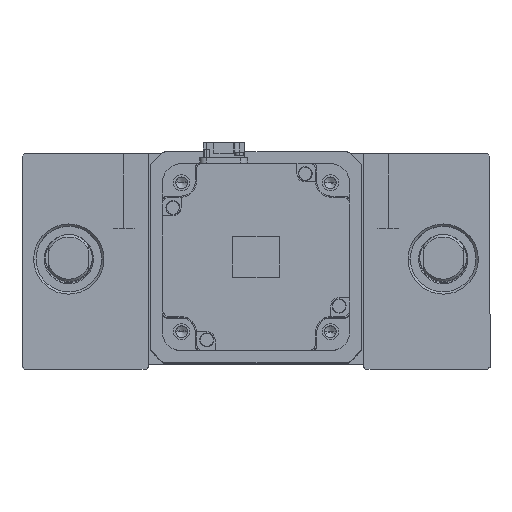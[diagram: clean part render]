
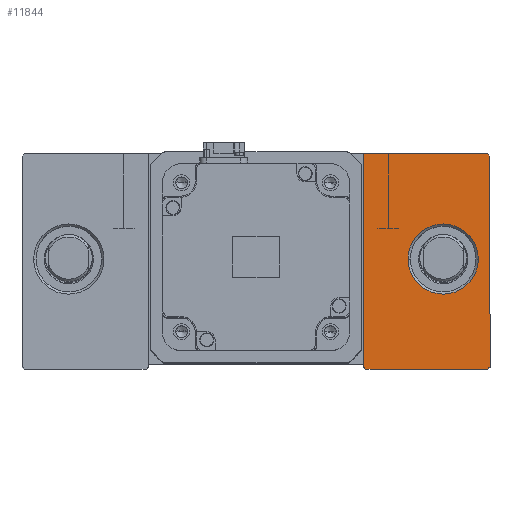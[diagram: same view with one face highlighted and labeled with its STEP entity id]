
A CAD part, top view. The second image highlights one B-rep face of the part: STEP entity #11844.
In plain terms, the highlighted planar face has unit normal (0, 0, 1).
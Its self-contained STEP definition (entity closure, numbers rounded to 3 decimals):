
#1607 = CARTESIAN_POINT ( 'NONE',  ( 46., 45., 35. ) ) ;
#1833 = PLANE ( 'NONE',  #11128 ) ;
#4224 = ORIENTED_EDGE ( 'NONE', *, *, #23421, .T. ) ;
#4590 = AXIS2_PLACEMENT_3D ( 'NONE', #46456, #23168, #50364 ) ;
#5204 = DIRECTION ( 'NONE',  ( 0.707, -0.707, 0. ) ) ;
#5372 = DIRECTION ( 'NONE',  ( -0.707, 0.707, 0. ) ) ;
#6078 = ORIENTED_EDGE ( 'NONE', *, *, #38535, .T. ) ;
#6246 = VERTEX_POINT ( 'NONE', #29766 ) ;
#6726 = LINE ( 'NONE', #9242, #45621 ) ;
#7371 = CIRCLE ( 'NONE', #4590, 15. ) ;
#7523 = CARTESIAN_POINT ( 'NONE',  ( 73., -73., 35. ) ) ;
#8937 = LINE ( 'NONE', #19663, #27165 ) ;
#9242 = CARTESIAN_POINT ( 'NONE',  ( 72., 72., 35. ) ) ;
#10149 = ORIENTED_EDGE ( 'NONE', *, *, #43912, .T. ) ;
#10840 = VERTEX_POINT ( 'NONE', #33654 ) ;
#11128 = AXIS2_PLACEMENT_3D ( 'NONE', #40519, #17377, #44583 ) ;
#11461 = EDGE_CURVE ( 'NONE', #15978, #42777, #47957, .T. ) ;
#11844 = ADVANCED_FACE ( 'NONE', ( #49122, #18111 ), #1833, .T. ) ;
#13812 = EDGE_CURVE ( 'NONE', #42777, #30918, #28845, .T. ) ;
#14449 = LINE ( 'NONE', #45447, #35096 ) ;
#14575 = CARTESIAN_POINT ( 'NONE',  ( 46., 45., 35. ) ) ;
#15554 = CARTESIAN_POINT ( 'NONE',  ( 80., 0., 35. ) ) ;
#15978 = VERTEX_POINT ( 'NONE', #48186 ) ;
#16796 = EDGE_CURVE ( 'NONE', #33837, #41480, #45508, .T. ) ;
#17279 = VECTOR ( 'NONE', #24842, 1000. ) ;
#17377 = DIRECTION ( 'NONE',  ( 0., 0., 1. ) ) ;
#18111 = FACE_OUTER_BOUND ( 'NONE', #19152, .T. ) ;
#18149 = VECTOR ( 'NONE', #37845, 1000. ) ;
#19152 = EDGE_LOOP ( 'NONE', ( #36443, #4224, #20770, #36185, #43749, #10149, #41071 ) ) ;
#19445 = DIRECTION ( 'NONE',  ( 1., 0., 0. ) ) ;
#19663 = CARTESIAN_POINT ( 'NONE',  ( 46., -47., 35. ) ) ;
#20523 = EDGE_LOOP ( 'NONE', ( #6078, #37343 ) ) ;
#20770 = ORIENTED_EDGE ( 'NONE', *, *, #46662, .T. ) ;
#21072 = CARTESIAN_POINT ( 'NONE',  ( 46., 45., 35. ) ) ;
#21296 = CARTESIAN_POINT ( 'NONE',  ( 46., -46., 35. ) ) ;
#22283 = AXIS2_PLACEMENT_3D ( 'NONE', #15554, #42753, #19445 ) ;
#23105 = CARTESIAN_POINT ( 'NONE',  ( 65., 0., 35. ) ) ;
#23168 = DIRECTION ( 'NONE',  ( 0., 0., -1. ) ) ;
#23421 = EDGE_CURVE ( 'NONE', #30918, #26448, #38023, .T. ) ;
#23580 = DIRECTION ( 'NONE',  ( 1., 0., 0. ) ) ;
#24842 = DIRECTION ( 'NONE',  ( 0., -1., 0. ) ) ;
#25610 = CARTESIAN_POINT ( 'NONE',  ( 47., -47., 35. ) ) ;
#26448 = VERTEX_POINT ( 'NONE', #25610 ) ;
#27165 = VECTOR ( 'NONE', #23580, 1000. ) ;
#27238 = VERTEX_POINT ( 'NONE', #23105 ) ;
#28260 = CARTESIAN_POINT ( 'NONE',  ( 0., 0., 35. ) ) ;
#28487 = EDGE_CURVE ( 'NONE', #41480, #10840, #14449, .T. ) ;
#28845 = LINE ( 'NONE', #1607, #17279 ) ;
#28929 = CARTESIAN_POINT ( 'NONE',  ( 99., -47., 35. ) ) ;
#29766 = CARTESIAN_POINT ( 'NONE',  ( 95., 0., 35. ) ) ;
#30918 = VERTEX_POINT ( 'NONE', #21296 ) ;
#33654 = CARTESIAN_POINT ( 'NONE',  ( 100., 44., 35. ) ) ;
#33837 = VERTEX_POINT ( 'NONE', #28929 ) ;
#35096 = VECTOR ( 'NONE', #49347, 1000. ) ;
#35173 = VECTOR ( 'NONE', #50325, 1000. ) ;
#35982 = CARTESIAN_POINT ( 'NONE',  ( 100., -46., 35. ) ) ;
#36185 = ORIENTED_EDGE ( 'NONE', *, *, #16796, .T. ) ;
#36443 = ORIENTED_EDGE ( 'NONE', *, *, #13812, .T. ) ;
#37343 = ORIENTED_EDGE ( 'NONE', *, *, #43650, .T. ) ;
#37845 = DIRECTION ( 'NONE',  ( -1., 0., 0. ) ) ;
#38023 = LINE ( 'NONE', #28260, #47126 ) ;
#38535 = EDGE_CURVE ( 'NONE', #6246, #27238, #49969, .T. ) ;
#40519 = CARTESIAN_POINT ( 'NONE',  ( 0., 0., 35. ) ) ;
#41071 = ORIENTED_EDGE ( 'NONE', *, *, #11461, .T. ) ;
#41480 = VERTEX_POINT ( 'NONE', #35982 ) ;
#42753 = DIRECTION ( 'NONE',  ( 0., 0., -1. ) ) ;
#42777 = VERTEX_POINT ( 'NONE', #21072 ) ;
#43650 = EDGE_CURVE ( 'NONE', #27238, #6246, #7371, .T. ) ;
#43749 = ORIENTED_EDGE ( 'NONE', *, *, #28487, .T. ) ;
#43912 = EDGE_CURVE ( 'NONE', #10840, #15978, #6726, .T. ) ;
#44583 = DIRECTION ( 'NONE',  ( 1., 0., 0. ) ) ;
#45447 = CARTESIAN_POINT ( 'NONE',  ( 100., 45., 35. ) ) ;
#45508 = LINE ( 'NONE', #7523, #35173 ) ;
#45621 = VECTOR ( 'NONE', #5372, 1000. ) ;
#46456 = CARTESIAN_POINT ( 'NONE',  ( 80., 0., 35. ) ) ;
#46662 = EDGE_CURVE ( 'NONE', #26448, #33837, #8937, .T. ) ;
#47126 = VECTOR ( 'NONE', #5204, 1000. ) ;
#47957 = LINE ( 'NONE', #14575, #18149 ) ;
#48186 = CARTESIAN_POINT ( 'NONE',  ( 99., 45., 35. ) ) ;
#49122 = FACE_BOUND ( 'NONE', #20523, .T. ) ;
#49347 = DIRECTION ( 'NONE',  ( 0., 1., 0. ) ) ;
#49969 = CIRCLE ( 'NONE', #22283, 15. ) ;
#50325 = DIRECTION ( 'NONE',  ( 0.707, 0.707, 0. ) ) ;
#50364 = DIRECTION ( 'NONE',  ( 1., 0., 0. ) ) ;
